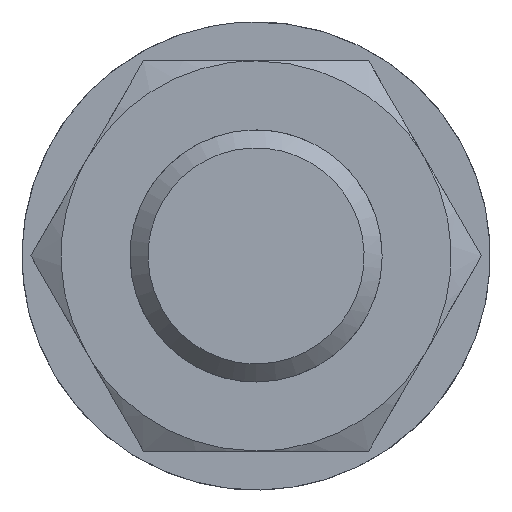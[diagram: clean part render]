
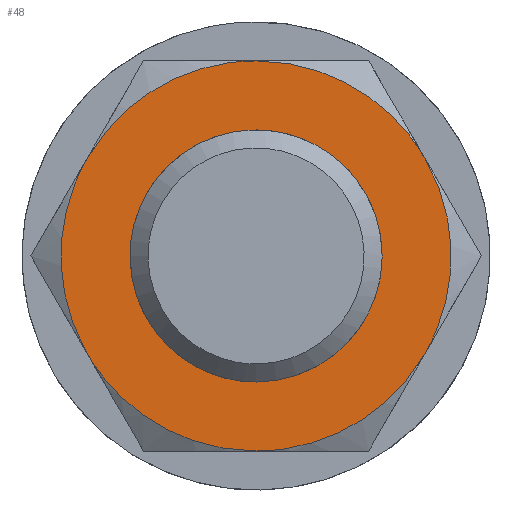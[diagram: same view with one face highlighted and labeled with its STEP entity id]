
A CAD part, left-side view. The second image highlights one B-rep face of the part: STEP entity #48.
In plain terms, the highlighted planar face has unit normal (-1, 0, 0).
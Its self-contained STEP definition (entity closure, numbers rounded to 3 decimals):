
#39=FACE_BOUND('',#135,.T.);
#48=ADVANCED_FACE('',(#90,#39),#650,.T.);
#90=FACE_OUTER_BOUND('',#134,.T.);
#134=EDGE_LOOP('',(#198,#199,#200,#201,#202,#203));
#135=EDGE_LOOP('',(#204,#205));
#198=ORIENTED_EDGE('',*,*,#397,.F.);
#199=ORIENTED_EDGE('',*,*,#399,.F.);
#200=ORIENTED_EDGE('',*,*,#400,.F.);
#201=ORIENTED_EDGE('',*,*,#398,.F.);
#202=ORIENTED_EDGE('',*,*,#396,.F.);
#203=ORIENTED_EDGE('',*,*,#395,.F.);
#204=ORIENTED_EDGE('',*,*,#385,.F.);
#205=ORIENTED_EDGE('',*,*,#383,.F.);
#383=EDGE_CURVE('',#596,#586,#507,.T.);
#385=EDGE_CURVE('',#586,#596,#508,.T.);
#395=EDGE_CURVE('',#590,#591,#516,.T.);
#396=EDGE_CURVE('',#591,#595,#517,.T.);
#397=EDGE_CURVE('',#592,#590,#518,.T.);
#398=EDGE_CURVE('',#595,#594,#519,.T.);
#399=EDGE_CURVE('',#593,#592,#520,.T.);
#400=EDGE_CURVE('',#594,#593,#521,.T.);
#507=(
BOUNDED_CURVE()
B_SPLINE_CURVE(2,(#1153,#1154,#1155,#1156,#1157),.UNSPECIFIED.,.F.,.F.)
B_SPLINE_CURVE_WITH_KNOTS((3,2,3),(65.973,98.96,131.947),
 .UNSPECIFIED.)
CURVE()
GEOMETRIC_REPRESENTATION_ITEM()
RATIONAL_B_SPLINE_CURVE((1.,0.707,1.,0.707,1.))
REPRESENTATION_ITEM('')
);
#508=(
BOUNDED_CURVE()
B_SPLINE_CURVE(2,(#1160,#1161,#1162,#1163,#1164),.UNSPECIFIED.,.F.,.F.)
B_SPLINE_CURVE_WITH_KNOTS((3,2,3),(0.,32.987,65.973),
 .UNSPECIFIED.)
CURVE()
GEOMETRIC_REPRESENTATION_ITEM()
RATIONAL_B_SPLINE_CURVE((1.,0.707,1.,0.707,1.))
REPRESENTATION_ITEM('')
);
#516=(
BOUNDED_CURVE()
B_SPLINE_CURVE(2,(#1202,#1203,#1204),.UNSPECIFIED.,.F.,.F.)
B_SPLINE_CURVE_WITH_KNOTS((3,3),(0.,34.034),.UNSPECIFIED.)
CURVE()
GEOMETRIC_REPRESENTATION_ITEM()
RATIONAL_B_SPLINE_CURVE((1.,0.866,1.))
REPRESENTATION_ITEM('')
);
#517=(
BOUNDED_CURVE()
B_SPLINE_CURVE(2,(#1205,#1206,#1207),.UNSPECIFIED.,.F.,.F.)
B_SPLINE_CURVE_WITH_KNOTS((3,3),(0.,34.034),.UNSPECIFIED.)
CURVE()
GEOMETRIC_REPRESENTATION_ITEM()
RATIONAL_B_SPLINE_CURVE((1.,0.866,1.))
REPRESENTATION_ITEM('')
);
#518=(
BOUNDED_CURVE()
B_SPLINE_CURVE(2,(#1208,#1209,#1210),.UNSPECIFIED.,.F.,.F.)
B_SPLINE_CURVE_WITH_KNOTS((3,3),(0.,34.034),.UNSPECIFIED.)
CURVE()
GEOMETRIC_REPRESENTATION_ITEM()
RATIONAL_B_SPLINE_CURVE((1.,0.866,1.))
REPRESENTATION_ITEM('')
);
#519=(
BOUNDED_CURVE()
B_SPLINE_CURVE(2,(#1211,#1212,#1213),.UNSPECIFIED.,.F.,.F.)
B_SPLINE_CURVE_WITH_KNOTS((3,3),(0.,34.034),.UNSPECIFIED.)
CURVE()
GEOMETRIC_REPRESENTATION_ITEM()
RATIONAL_B_SPLINE_CURVE((1.,0.866,1.))
REPRESENTATION_ITEM('')
);
#520=(
BOUNDED_CURVE()
B_SPLINE_CURVE(2,(#1214,#1215,#1216),.UNSPECIFIED.,.F.,.F.)
B_SPLINE_CURVE_WITH_KNOTS((3,3),(0.,34.034),.UNSPECIFIED.)
CURVE()
GEOMETRIC_REPRESENTATION_ITEM()
RATIONAL_B_SPLINE_CURVE((1.,0.866,1.))
REPRESENTATION_ITEM('')
);
#521=(
BOUNDED_CURVE()
B_SPLINE_CURVE(2,(#1217,#1218,#1219),.UNSPECIFIED.,.F.,.F.)
B_SPLINE_CURVE_WITH_KNOTS((3,3),(0.,34.034),.UNSPECIFIED.)
CURVE()
GEOMETRIC_REPRESENTATION_ITEM()
RATIONAL_B_SPLINE_CURVE((1.,0.866,1.))
REPRESENTATION_ITEM('')
);
#586=VERTEX_POINT('',#1121);
#590=VERTEX_POINT('',#1125);
#591=VERTEX_POINT('',#1126);
#592=VERTEX_POINT('',#1127);
#593=VERTEX_POINT('',#1128);
#594=VERTEX_POINT('',#1129);
#595=VERTEX_POINT('',#1130);
#596=VERTEX_POINT('',#1131);
#650=PLANE('',#764);
#764=AXIS2_PLACEMENT_3D('',#878,#790,$);
#790=DIRECTION('',(-1.,0.,0.));
#878=CARTESIAN_POINT('',(58.333,-45.153,39.12));
#1121=CARTESIAN_POINT('',(58.333,0.,-21.));
#1125=CARTESIAN_POINT('',(58.333,-28.146,16.25));
#1126=CARTESIAN_POINT('',(58.333,-28.146,-16.25));
#1127=CARTESIAN_POINT('',(58.333,0.,32.5));
#1128=CARTESIAN_POINT('',(58.333,28.146,16.25));
#1129=CARTESIAN_POINT('',(58.333,28.146,-16.25));
#1130=CARTESIAN_POINT('',(58.333,0.,-32.5));
#1131=CARTESIAN_POINT('',(58.333,0.,21.));
#1153=CARTESIAN_POINT('',(58.333,0.,21.));
#1154=CARTESIAN_POINT('',(58.333,21.,21.));
#1155=CARTESIAN_POINT('',(58.333,21.,0.));
#1156=CARTESIAN_POINT('',(58.333,21.,-21.));
#1157=CARTESIAN_POINT('',(58.333,0.,-21.));
#1160=CARTESIAN_POINT('',(58.333,0.,-21.));
#1161=CARTESIAN_POINT('',(58.333,-21.,-21.));
#1162=CARTESIAN_POINT('',(58.333,-21.,0.));
#1163=CARTESIAN_POINT('',(58.333,-21.,21.));
#1164=CARTESIAN_POINT('',(58.333,0.,21.));
#1202=CARTESIAN_POINT('',(58.333,-28.146,16.25));
#1203=CARTESIAN_POINT('',(58.333,-37.528,0.));
#1204=CARTESIAN_POINT('',(58.333,-28.146,-16.25));
#1205=CARTESIAN_POINT('',(58.333,-28.146,-16.25));
#1206=CARTESIAN_POINT('',(58.333,-18.764,-32.5));
#1207=CARTESIAN_POINT('',(58.333,0.,-32.5));
#1208=CARTESIAN_POINT('',(58.333,0.,32.5));
#1209=CARTESIAN_POINT('',(58.333,-18.764,32.5));
#1210=CARTESIAN_POINT('',(58.333,-28.146,16.25));
#1211=CARTESIAN_POINT('',(58.333,0.,-32.5));
#1212=CARTESIAN_POINT('',(58.333,18.764,-32.5));
#1213=CARTESIAN_POINT('',(58.333,28.146,-16.25));
#1214=CARTESIAN_POINT('',(58.333,28.146,16.25));
#1215=CARTESIAN_POINT('',(58.333,18.764,32.5));
#1216=CARTESIAN_POINT('',(58.333,0.,32.5));
#1217=CARTESIAN_POINT('',(58.333,28.146,-16.25));
#1218=CARTESIAN_POINT('',(58.333,37.528,0.));
#1219=CARTESIAN_POINT('',(58.333,28.146,16.25));
